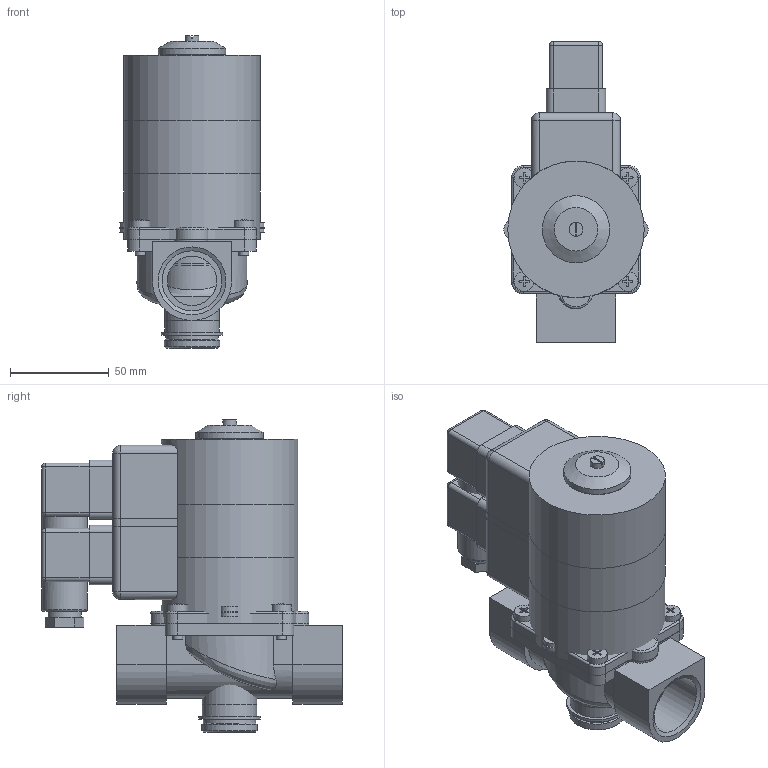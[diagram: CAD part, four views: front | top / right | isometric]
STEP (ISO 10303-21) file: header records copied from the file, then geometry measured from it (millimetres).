
FILE_DESCRIPTION( ( 'Unknown' ), '1' );
FILE_NAME( 'D:/Wyroby/Widoki gabarytowe/Zawory ZEP/ZEP_25/ZEP_25.stp', 'Unknown', ( 'Unknown' ), ( 'Unknown' ), 'XStep 1.0', 'Unknown', ' ' );
FILE_SCHEMA( ( 'CONFIG_CONTROL_DESIGN' ) );
Length unit declared in the file: millimetre
Products named in the file (28): Wa_129_01_00; Wa_127_01_01; Assem1; Wa_007_01_02; Wa_007_01_02_003k1; Wa_007_01_02_002k1; Wa_007_01_02_001k1; Wa_127_01_00_005; Wa_127_01_00_006; Wa_127_01_00_007; Wa_127_01_00_009; Wa_127_01_00_004; Wa_127_01_00_001; Wa_127_01_00_012wygieta2mm; Korpus_MVPE_25; Wa_127_01_00_002; Wa_127_01_00_003; W-036M5x14krzy¿.; Wa_007_01_00_007; W-008 wkrêt m4x12; Wa_007_01_00_002; Wa_136_01_00_005; Wa_163_01_03_008彡i從i黎a26,9; Cewka_25
Bounding box: 72.96 x 152 x 157.8 mm (x, y, z)
Volume: 1122761.2 mm3; surface area: 383808.5 mm2
Topology: 81 solids, 81 shells, 1588 faces, 3552 edges, 2264 vertices
Faces by surface type: plane 666, cylinder 564, cone 236, torus 67, sphere 28, bspline 27
Full cylindrical faces by diameter (mm): 1 x3, 3 x12, 3.242 x4, 3.5 x3, 4 x3, 4.134 x12, 4.2 x3, 4.917 x4, 5 x27, 5.5 x12, 6 x8, 7 x15, 7.1 x4, 8 x4, 9.5 x4, 10 x16, 10.5 x4, 10.917 x4, 12 x14, 17 x2, 18 x3, 22 x8, 22.5 x3, 22.7 x16, 23 x2, 24 x8, 24.8 x4, 24.917 x8, 25 x13, 26 x16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
Entity records: 19347 total; most frequent: CARTESIAN_POINT 7505, DIRECTION 2358, ORIENTED_EDGE 1804, AXIS2_PLACEMENT_3D 1011, EDGE_CURVE 902, EDGE_LOOP 781, VERTEX_POINT 674, FACE_OUTER_BOUND 614
